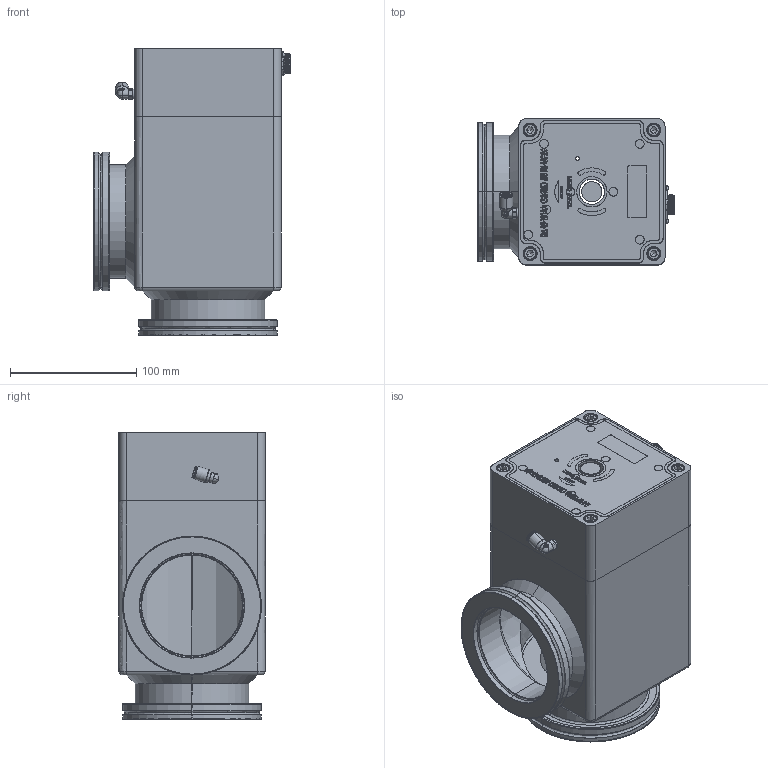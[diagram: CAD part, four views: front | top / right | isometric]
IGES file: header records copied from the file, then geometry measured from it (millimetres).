
Start section: SolidWorks IGES file using analytic representation for surfaces
Global section: file name: I:\1aﾃﾗﾂ蟠ｴﾐﾂ2023-4-14\a1ｵｲｰ蟾ｧISO-K 80\ｹ､ｳﾌﾍｼﾖｽ\ISO-K DN80 ｽﾇｷｧ.IGS,1; native system: 5HSolidWorks 2023; preprocessor: SolidWorks 2023; author: pp; date: 241111.154946; units: millimetre
Bounding box: 155.6 x 116 x 227.6 mm (x, y, z)
Surface area: 222935.6 mm2 (no closed solid volume)
Topology: 0 solids, 0 shells, 514 faces, 11459 edges, 11443 vertices
Faces by surface type: bspline 316, revolution 198
